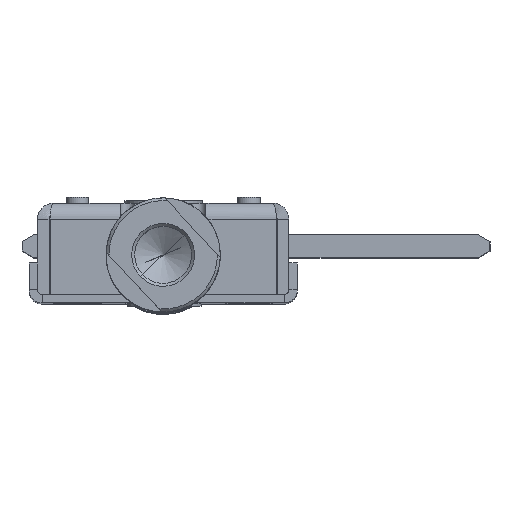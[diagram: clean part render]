
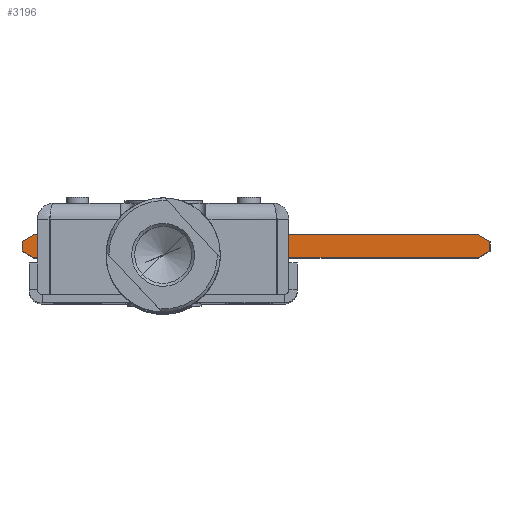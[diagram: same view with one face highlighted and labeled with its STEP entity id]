
A CAD part, top view. The second image highlights one B-rep face of the part: STEP entity #3196.
In plain terms, the highlighted planar face has unit normal (0, 0, 1) as drawn and (0, -1, 0) by its records, which use the part's own axes.
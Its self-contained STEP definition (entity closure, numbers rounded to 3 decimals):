
#163 = EDGE_CURVE ( 'NONE', #13555, #10751, #13205, .T. ) ;
#175 = CARTESIAN_POINT ( 'NONE',  ( 0., 0., 4. ) ) ;
#657 = EDGE_CURVE ( 'NONE', #8982, #4315, #14010, .T. ) ;
#1124 = CARTESIAN_POINT ( 'NONE',  ( 0.512, 0., 3.114 ) ) ;
#1323 = DIRECTION ( 'NONE',  ( -0.866, 0., -0.5 ) ) ;
#1722 = CARTESIAN_POINT ( 'NONE',  ( 0., 0., 4. ) ) ;
#2876 = LINE ( 'NONE', #22196, #4419 ) ;
#3196 = ADVANCED_FACE ( 'NONE', ( #4791 ), #17143, .F. ) ;
#3198 = LINE ( 'NONE', #4899, #20953 ) ;
#3563 = CARTESIAN_POINT ( 'NONE',  ( 82., 0., 2.845 ) ) ;
#4215 = EDGE_CURVE ( 'NONE', #10751, #7076, #15573, .T. ) ;
#4315 = VERTEX_POINT ( 'NONE', #13892 ) ;
#4419 = VECTOR ( 'NONE', #22229, 1000. ) ;
#4650 = EDGE_LOOP ( 'NONE', ( #12299, #11530, #5308, #17643, #17289, #12863, #9840, #9307 ) ) ;
#4791 = FACE_OUTER_BOUND ( 'NONE', #4650, .T. ) ;
#4899 = CARTESIAN_POINT ( 'NONE',  ( -1.226, 0., 1.877 ) ) ;
#4942 = VERTEX_POINT ( 'NONE', #15970 ) ;
#5308 = ORIENTED_EDGE ( 'NONE', *, *, #10009, .F. ) ;
#5846 = LINE ( 'NONE', #9459, #6138 ) ;
#5956 = EDGE_CURVE ( 'NONE', #21498, #4315, #2876, .T. ) ;
#6138 = VECTOR ( 'NONE', #9588, 1000. ) ;
#6248 = VECTOR ( 'NONE', #11955, 1000. ) ;
#6613 = CARTESIAN_POINT ( 'NONE',  ( 80., 0., 4. ) ) ;
#7076 = VERTEX_POINT ( 'NONE', #14658 ) ;
#8055 = CARTESIAN_POINT ( 'NONE',  ( 82., 0., 4. ) ) ;
#8218 = DIRECTION ( 'NONE',  ( 0., 0., -1. ) ) ;
#8437 = LINE ( 'NONE', #6613, #6248 ) ;
#8982 = VERTEX_POINT ( 'NONE', #3563 ) ;
#9307 = ORIENTED_EDGE ( 'NONE', *, *, #5956, .T. ) ;
#9355 = VECTOR ( 'NONE', #8218, 1000. ) ;
#9379 = CARTESIAN_POINT ( 'NONE',  ( 0., 0., 2.819 ) ) ;
#9459 = CARTESIAN_POINT ( 'NONE',  ( 0., 0., 0. ) ) ;
#9588 = DIRECTION ( 'NONE',  ( 1., 0., 0. ) ) ;
#9840 = ORIENTED_EDGE ( 'NONE', *, *, #10313, .T. ) ;
#10009 = EDGE_CURVE ( 'NONE', #13555, #4942, #13364, .T. ) ;
#10220 = DIRECTION ( 'NONE',  ( 0., 0., 1. ) ) ;
#10313 = EDGE_CURVE ( 'NONE', #22094, #21498, #5846, .T. ) ;
#10751 = VERTEX_POINT ( 'NONE', #9379 ) ;
#10860 = CARTESIAN_POINT ( 'NONE',  ( 80., 0., 0. ) ) ;
#11530 = ORIENTED_EDGE ( 'NONE', *, *, #19436, .T. ) ;
#11768 = AXIS2_PLACEMENT_3D ( 'NONE', #22846, #15390, #10220 ) ;
#11955 = DIRECTION ( 'NONE',  ( -0.866, 0., 0.5 ) ) ;
#12299 = ORIENTED_EDGE ( 'NONE', *, *, #657, .F. ) ;
#12742 = VECTOR ( 'NONE', #13390, 1000. ) ;
#12863 = ORIENTED_EDGE ( 'NONE', *, *, #18695, .T. ) ;
#13066 = CARTESIAN_POINT ( 'NONE',  ( 2.046, 0., 4. ) ) ;
#13205 = LINE ( 'NONE', #1124, #13404 ) ;
#13364 = LINE ( 'NONE', #175, #12742 ) ;
#13390 = DIRECTION ( 'NONE',  ( 1., 0., 0. ) ) ;
#13404 = VECTOR ( 'NONE', #1323, 1000. ) ;
#13555 = VERTEX_POINT ( 'NONE', #13066 ) ;
#13892 = CARTESIAN_POINT ( 'NONE',  ( 82., 0., 1.155 ) ) ;
#14010 = LINE ( 'NONE', #8055, #9355 ) ;
#14658 = CARTESIAN_POINT ( 'NONE',  ( 0., 0., 1.169 ) ) ;
#15390 = DIRECTION ( 'NONE',  ( 0., 1., 0. ) ) ;
#15573 = LINE ( 'NONE', #1722, #15594 ) ;
#15594 = VECTOR ( 'NONE', #20187, 1000. ) ;
#15970 = CARTESIAN_POINT ( 'NONE',  ( 80., 0., 4. ) ) ;
#17143 = PLANE ( 'NONE',  #11768 ) ;
#17289 = ORIENTED_EDGE ( 'NONE', *, *, #4215, .T. ) ;
#17643 = ORIENTED_EDGE ( 'NONE', *, *, #163, .T. ) ;
#18695 = EDGE_CURVE ( 'NONE', #7076, #22094, #3198, .T. ) ;
#19436 = EDGE_CURVE ( 'NONE', #8982, #4942, #8437, .T. ) ;
#20099 = CARTESIAN_POINT ( 'NONE',  ( 2.025, 0., 0. ) ) ;
#20187 = DIRECTION ( 'NONE',  ( 0., 0., -1. ) ) ;
#20771 = DIRECTION ( 'NONE',  ( 0.866, 0., -0.5 ) ) ;
#20953 = VECTOR ( 'NONE', #20771, 1000. ) ;
#21498 = VERTEX_POINT ( 'NONE', #10860 ) ;
#22094 = VERTEX_POINT ( 'NONE', #20099 ) ;
#22196 = CARTESIAN_POINT ( 'NONE',  ( 82., 0., 1.155 ) ) ;
#22229 = DIRECTION ( 'NONE',  ( 0.866, 0., 0.5 ) ) ;
#22846 = CARTESIAN_POINT ( 'NONE',  ( 0., 0., 4. ) ) ;
